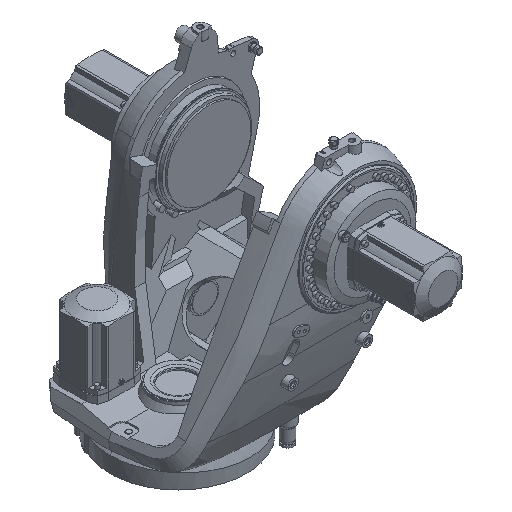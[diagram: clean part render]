
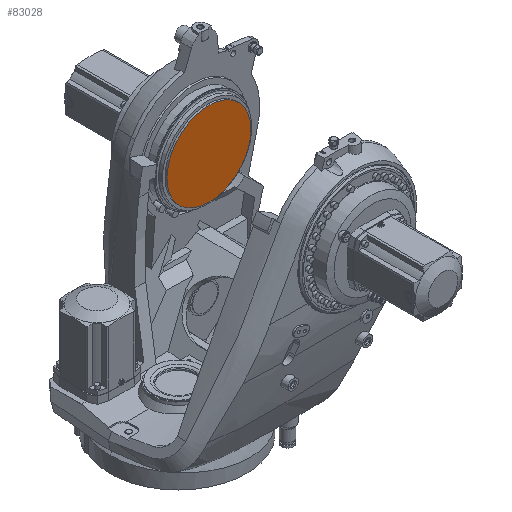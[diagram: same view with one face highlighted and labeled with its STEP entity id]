
A CAD part, isometric view. The second image highlights one B-rep face of the part: STEP entity #83028.
In plain terms, the highlighted planar face has unit normal (0, -1, 0).
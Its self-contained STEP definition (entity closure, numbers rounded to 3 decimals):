
#6337 = CARTESIAN_POINT ( 'NONE',  ( 335.729, 205., 1019.201 ) ) ;
#6823 = EDGE_LOOP ( 'NONE', ( #91622 ) ) ;
#18496 = EDGE_CURVE ( 'NONE', #48850, #48850, #20432, .T. ) ;
#20432 = CIRCLE ( 'NONE', #46739, 157.5 ) ;
#23192 = DIRECTION ( 'NONE',  ( 0., -1., 0. ) ) ;
#36065 = DIRECTION ( 'NONE',  ( 0., 1., 0. ) ) ;
#46739 = AXIS2_PLACEMENT_3D ( 'NONE', #91331, #23192, #90694 ) ;
#48850 = VERTEX_POINT ( 'NONE', #87793 ) ;
#55520 = AXIS2_PLACEMENT_3D ( 'NONE', #6337, #36065, #74974 ) ;
#74974 = DIRECTION ( 'NONE',  ( -0.174, 0., -0.985 ) ) ;
#83028 = ADVANCED_FACE ( 'NONE', ( #93487 ), #83286, .F. ) ;
#83286 = PLANE ( 'NONE',  #55520 ) ;
#87793 = CARTESIAN_POINT ( 'NONE',  ( 347.35, 205., 1085.107 ) ) ;
#90694 = DIRECTION ( 'NONE',  ( 0.174, 0., 0.985 ) ) ;
#91331 = CARTESIAN_POINT ( 'NONE',  ( 320., 205., 930. ) ) ;
#91622 = ORIENTED_EDGE ( 'NONE', *, *, #18496, .T. ) ;
#93487 = FACE_OUTER_BOUND ( 'NONE', #6823, .T. ) ;
